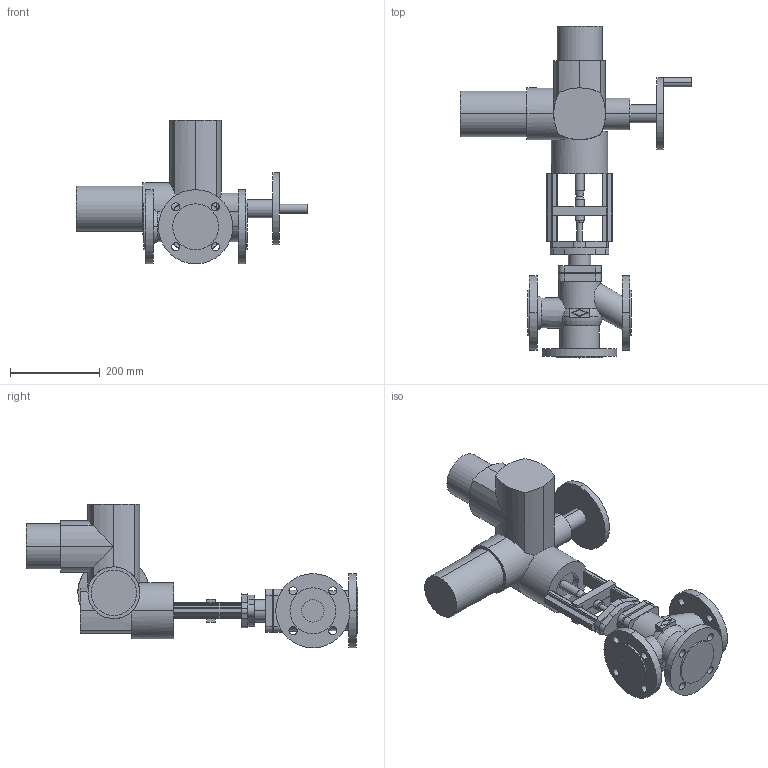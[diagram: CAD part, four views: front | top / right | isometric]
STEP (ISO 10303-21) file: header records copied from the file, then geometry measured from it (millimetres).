
FILE_DESCRIPTION(('OneSpaceDesigner STEP Export'),'2;1');
FILE_NAME('c000003150.stp','2007-01-24T 9:53:03',(''),(''),'OneSpace Designer STEP processor for AP214 (Solid Model)','OneSpace Designer 14.00B 27-May-2006 (C) CoCreate Software GmbH','');
FILE_SCHEMA(('AUTOMOTIVE_DESIGN { 1 0 10303 214 1 1 1 1 }'));
Length unit declared in the file: millimetre
Products named in the file (2): 1; 2
Bounding box: 514 x 737.5 x 319.5 mm (x, y, z)
Volume: 11496287 mm3; surface area: 708586.2 mm2
Topology: 2 solids, 2 shells, 285 faces, 735 edges, 471 vertices
Faces by surface type: cylinder 140, plane 131, cone 8, torus 6
Entity records: 8439 total; most frequent: CARTESIAN_POINT 1917, ORIENTED_EDGE 1470, DIRECTION 1208, EDGE_CURVE 735, VERTEX_POINT 471, AXIS2_PLACEMENT_3D 406, VECTOR 396, LINE 396
